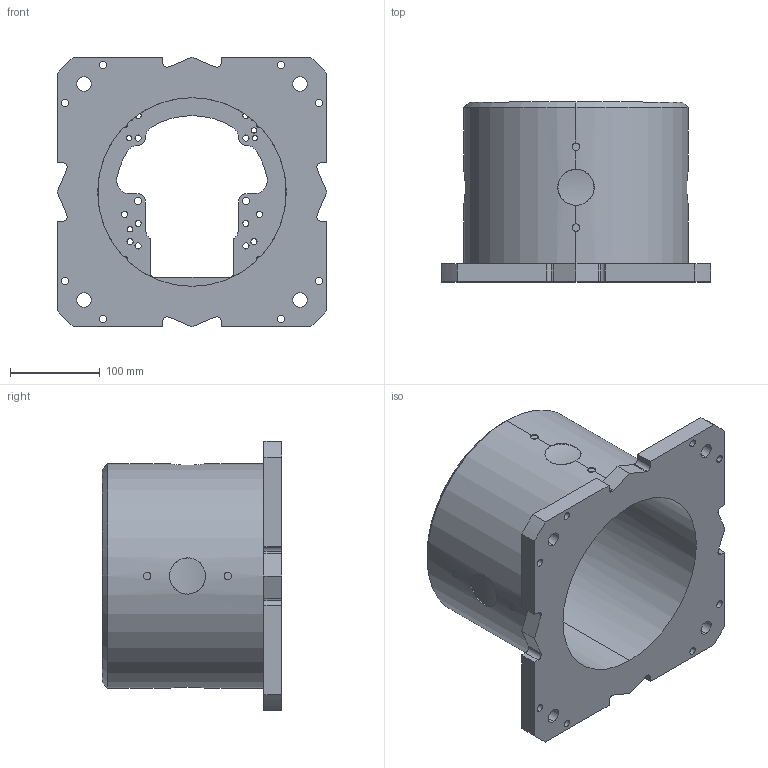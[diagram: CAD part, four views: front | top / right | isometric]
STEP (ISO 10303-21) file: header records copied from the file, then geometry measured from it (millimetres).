
FILE_DESCRIPTION (( 'STEP AP214' ), '1' );
FILE_NAME ('A-200.STEP', '2025-09-19T10:50:03', ( '' ), ( '' ), 'SwSTEP 2.0', 'SolidWorks 2022', '' );
FILE_SCHEMA (( 'AUTOMOTIVE_DESIGN' ));
Length unit declared in the file: millimetre
Products named in the file (1): A-200
Bounding box: 300 x 200 x 300 mm (x, y, z)
Volume: 3857003.6 mm3; surface area: 443386.6 mm2
Topology: 1 solids, 1 shells, 208 faces, 626 edges, 408 vertices
Faces by surface type: cylinder 147, plane 35, cone 18, bspline 8
Entity records: 11075 total; most frequent: CARTESIAN_POINT 4503, ORIENTED_EDGE 1228, DIRECTION 1184, EDGE_CURVE 614, AXIS2_PLACEMENT_3D 459, VERTEX_POINT 408, EDGE_LOOP 282, LINE 266
